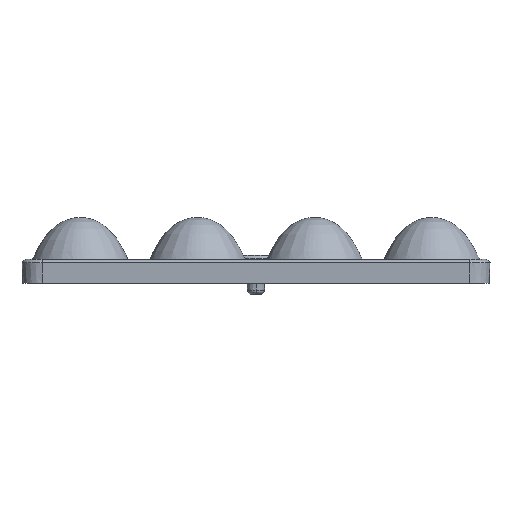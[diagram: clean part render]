
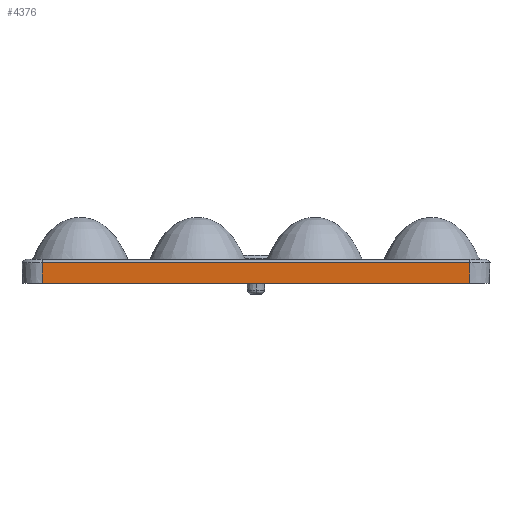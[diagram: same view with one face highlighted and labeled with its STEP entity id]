
A CAD part, front view. The second image highlights one B-rep face of the part: STEP entity #4376.
In plain terms, the highlighted planar face has unit normal (0, -0.999, -0.035).
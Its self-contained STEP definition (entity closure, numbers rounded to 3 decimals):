
#235=DIRECTION('',(0.,-0.035,0.999));
#236=VECTOR('',#235,2.201);
#237=CARTESIAN_POINT('',(52.621,-61.639,-2.096));
#238=LINE('',#237,#236);
#243=DIRECTION('',(-1.,0.,0.));
#244=VECTOR('',#243,45.593);
#245=CARTESIAN_POINT('',(52.621,-61.639,-2.096));
#246=LINE('',#245,#244);
#251=DIRECTION('',(0.,0.035,-0.999));
#252=VECTOR('',#251,2.201);
#253=CARTESIAN_POINT('',(7.029,-61.716,0.104));
#254=LINE('',#253,#252);
#282=DIRECTION('',(-1.,0.,0.));
#283=VECTOR('',#282,45.593);
#284=CARTESIAN_POINT('',(52.621,-61.716,0.104));
#285=LINE('',#284,#283);
#3342=CARTESIAN_POINT('',(7.029,-61.639,
-2.096));
#3343=VERTEX_POINT('',#3342);
#3344=CARTESIAN_POINT('',(52.621,-61.639,
-2.096));
#3345=VERTEX_POINT('',#3344);
#3438=CARTESIAN_POINT('',(52.621,-61.716,
0.104));
#3439=VERTEX_POINT('',#3438);
#3440=CARTESIAN_POINT('',(7.029,-61.716,
0.104));
#3441=VERTEX_POINT('',#3440);
#4363=CARTESIAN_POINT('',(6.176,-61.716,
0.104));
#4364=DIRECTION('',(0.,-0.999,-0.035));
#4365=DIRECTION('',(1.,0.,0.));
#4366=AXIS2_PLACEMENT_3D('',#4363,#4364,#4365);
#4367=PLANE('',#4366);
#4369=ORIENTED_EDGE('',*,*,#4368,.F.);
#4371=ORIENTED_EDGE('',*,*,#4370,.F.);
#4372=ORIENTED_EDGE('',*,*,#4354,.F.);
#4373=ORIENTED_EDGE('',*,*,#4165,.T.);
#4374=EDGE_LOOP('',(#4369,#4371,#4372,#4373));
#4375=FACE_OUTER_BOUND('',#4374,.F.);
#4376=ADVANCED_FACE('',(#4375),#4367,.T.);
#4165=EDGE_CURVE('',#3345,#3343,#246,.T.);
#4354=EDGE_CURVE('',#3345,#3439,#238,.T.);
#4368=EDGE_CURVE('',#3441,#3343,#254,.T.);
#4370=EDGE_CURVE('',#3439,#3441,#285,.T.);
